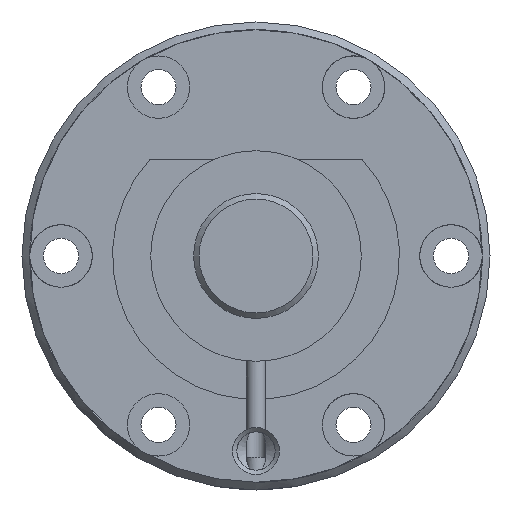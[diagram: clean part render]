
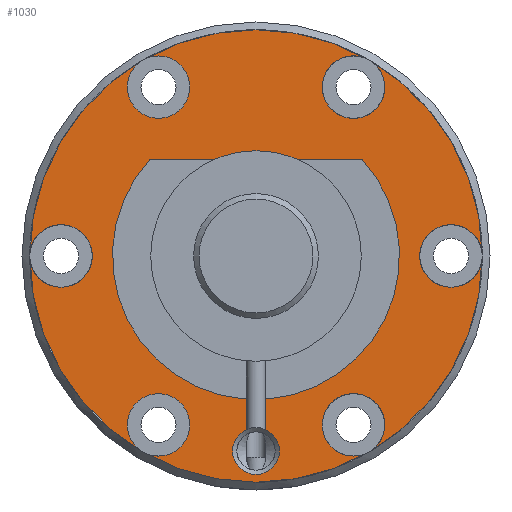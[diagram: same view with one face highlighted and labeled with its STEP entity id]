
A CAD part, left-side view. The second image highlights one B-rep face of the part: STEP entity #1030.
In plain terms, the highlighted planar face has unit normal (1, 0, 0).
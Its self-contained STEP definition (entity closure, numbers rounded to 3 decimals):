
#26=LINE('',#1764,#50);
#50=VECTOR('',#1376,1000.);
#183=ORIENTED_EDGE('',*,*,#409,.T.);
#184=ORIENTED_EDGE('',*,*,#410,.T.);
#185=ORIENTED_EDGE('',*,*,#411,.F.);
#186=ORIENTED_EDGE('',*,*,#412,.F.);
#187=ORIENTED_EDGE('',*,*,#413,.F.);
#188=ORIENTED_EDGE('',*,*,#414,.F.);
#189=ORIENTED_EDGE('',*,*,#415,.F.);
#190=ORIENTED_EDGE('',*,*,#416,.F.);
#191=ORIENTED_EDGE('',*,*,#417,.F.);
#409=EDGE_CURVE('',#523,#523,#622,.F.);
#410=EDGE_CURVE('',#524,#524,#623,.T.);
#411=EDGE_CURVE('',#525,#526,#624,.T.);
#412=EDGE_CURVE('',#526,#525,#26,.T.);
#413=EDGE_CURVE('',#527,#527,#625,.T.);
#414=EDGE_CURVE('',#528,#528,#626,.T.);
#415=EDGE_CURVE('',#529,#529,#627,.T.);
#416=EDGE_CURVE('',#530,#530,#628,.T.);
#417=EDGE_CURVE('',#531,#531,#629,.T.);
#523=VERTEX_POINT('',#1758);
#524=VERTEX_POINT('',#1760);
#525=VERTEX_POINT('',#1762);
#526=VERTEX_POINT('',#1763);
#527=VERTEX_POINT('',#1766);
#528=VERTEX_POINT('',#1768);
#529=VERTEX_POINT('',#1770);
#530=VERTEX_POINT('',#1772);
#531=VERTEX_POINT('',#1774);
#622=CIRCLE('',#1161,2.25);
#623=CIRCLE('',#1162,29.);
#624=CIRCLE('',#1163,18.4);
#625=CIRCLE('',#1164,2.25);
#626=CIRCLE('',#1165,2.25);
#627=CIRCLE('',#1166,2.25);
#628=CIRCLE('',#1167,2.25);
#629=CIRCLE('',#1168,2.25);
#706=EDGE_LOOP('',(#183));
#707=EDGE_LOOP('',(#184));
#708=EDGE_LOOP('',(#185,#186));
#709=EDGE_LOOP('',(#187));
#710=EDGE_LOOP('',(#188));
#711=EDGE_LOOP('',(#189));
#712=EDGE_LOOP('',(#190));
#713=EDGE_LOOP('',(#191));
#860=FACE_BOUND('',#706,.T.);
#861=FACE_BOUND('',#707,.T.);
#862=FACE_BOUND('',#708,.T.);
#863=FACE_BOUND('',#709,.T.);
#864=FACE_BOUND('',#710,.T.);
#865=FACE_BOUND('',#711,.T.);
#866=FACE_BOUND('',#712,.T.);
#867=FACE_BOUND('',#713,.T.);
#992=PLANE('',#1160);
#1030=ADVANCED_FACE('',(#860,#861,#862,#863,#864,#865,#866,#867),#992,.T.);
#1160=AXIS2_PLACEMENT_3D('',#1756,#1368,#1369);
#1161=AXIS2_PLACEMENT_3D('',#1757,#1370,#1371);
#1162=AXIS2_PLACEMENT_3D('',#1759,#1372,#1373);
#1163=AXIS2_PLACEMENT_3D('',#1761,#1374,#1375);
#1164=AXIS2_PLACEMENT_3D('',#1765,#1377,#1378);
#1165=AXIS2_PLACEMENT_3D('',#1767,#1379,#1380);
#1166=AXIS2_PLACEMENT_3D('',#1769,#1381,#1382);
#1167=AXIS2_PLACEMENT_3D('',#1771,#1383,#1384);
#1168=AXIS2_PLACEMENT_3D('',#1773,#1385,#1386);
#1368=DIRECTION('',(1.,0.,0.));
#1369=DIRECTION('',(0.,0.,-1.));
#1370=DIRECTION('',(1.,0.,0.));
#1371=DIRECTION('',(0.,0.,-1.));
#1372=DIRECTION('',(1.,0.,0.));
#1373=DIRECTION('',(0.,0.,-1.));
#1374=DIRECTION('',(1.,0.,0.));
#1375=DIRECTION('',(0.,0.,-1.));
#1376=DIRECTION('',(0.,-1.,0.));
#1377=DIRECTION('',(1.,0.,0.));
#1378=DIRECTION('',(0.,0.,-1.));
#1379=DIRECTION('',(1.,0.,0.));
#1380=DIRECTION('',(0.,0.,-1.));
#1381=DIRECTION('',(1.,0.,0.));
#1382=DIRECTION('',(0.,0.,-1.));
#1383=DIRECTION('',(1.,0.,0.));
#1384=DIRECTION('',(0.,0.,-1.));
#1385=DIRECTION('',(1.,0.,0.));
#1386=DIRECTION('',(0.,0.,-1.));
#1756=CARTESIAN_POINT('',(10.,13.5,0.));
#1757=CARTESIAN_POINT('',(10.,25.,0.));
#1758=CARTESIAN_POINT('',(10.,25.,-2.25));
#1759=CARTESIAN_POINT('',(10.,0.,0.));
#1760=CARTESIAN_POINT('',(10.,0.,-29.));
#1761=CARTESIAN_POINT('',(10.,0.,0.));
#1762=CARTESIAN_POINT('',(10.,-13.594,12.4));
#1763=CARTESIAN_POINT('',(10.,13.594,12.4));
#1764=CARTESIAN_POINT('',(10.,24.,12.4));
#1765=CARTESIAN_POINT('',(10.,12.5,-21.651));
#1766=CARTESIAN_POINT('',(10.,12.5,-23.901));
#1767=CARTESIAN_POINT('',(10.,-12.5,-21.651));
#1768=CARTESIAN_POINT('',(10.,-12.5,-23.901));
#1769=CARTESIAN_POINT('',(10.,-25.,0.));
#1770=CARTESIAN_POINT('',(10.,-25.,-2.25));
#1771=CARTESIAN_POINT('',(10.,-12.5,21.651));
#1772=CARTESIAN_POINT('',(10.,-12.5,19.401));
#1773=CARTESIAN_POINT('',(10.,12.5,21.651));
#1774=CARTESIAN_POINT('',(10.,12.5,19.401));
